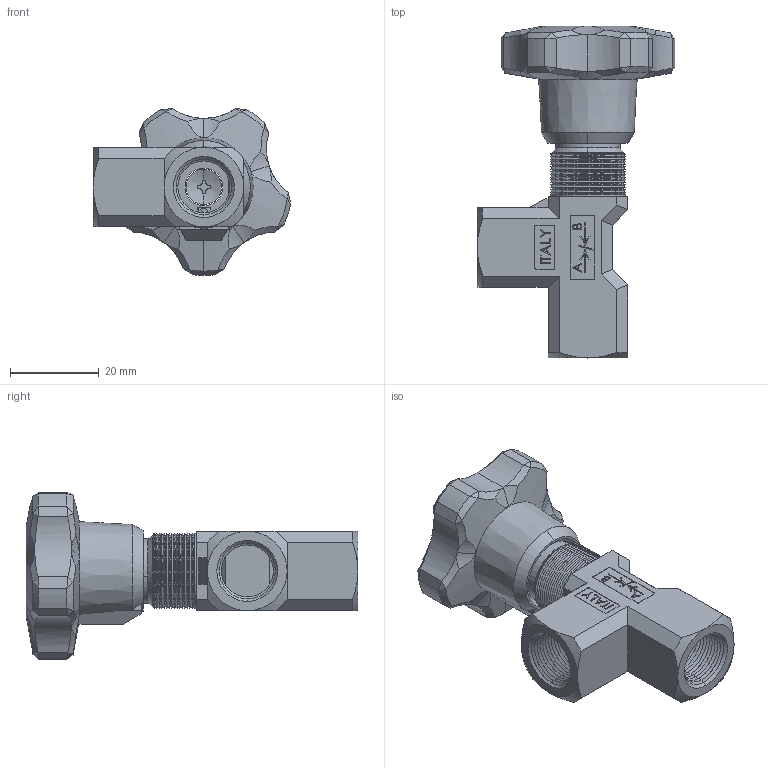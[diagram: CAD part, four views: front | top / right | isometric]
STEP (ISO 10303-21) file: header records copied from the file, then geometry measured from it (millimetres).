
FILE_DESCRIPTION (( 'STEP AP214' ), '1' );
FILE_NAME ('252-2-14 VOLANTINO ABS F-F.STEP', '2015-05-15T15:40:05', ( '' ), ( '' ), 'SwSTEP 2.0', 'SolidWorks 2014', '' );
FILE_SCHEMA (( 'AUTOMOTIVE_DESIGN' ));
Length unit declared in the file: millimetre
Products named in the file (1): 252-2-14 VOLANTINO ABS F-F
Bounding box: 44.62 x 75 x 37.72 mm (x, y, z)
Surface area: 10547.2 mm2 (no closed solid volume)
Topology: 0 solids, 20 shells, 535 faces, 1544 edges, 990 vertices
Faces by surface type: plane 264, cone 160, cylinder 68, bspline 41, sphere 2
Entity records: 28059 total; most frequent: CARTESIAN_POINT 8695, ORIENTED_EDGE 2698, DIRECTION 2630, EDGE_CURVE 1544, VERTEX_POINT 990, LINE 976, VECTOR 976, AXIS2_PLACEMENT_3D 827
